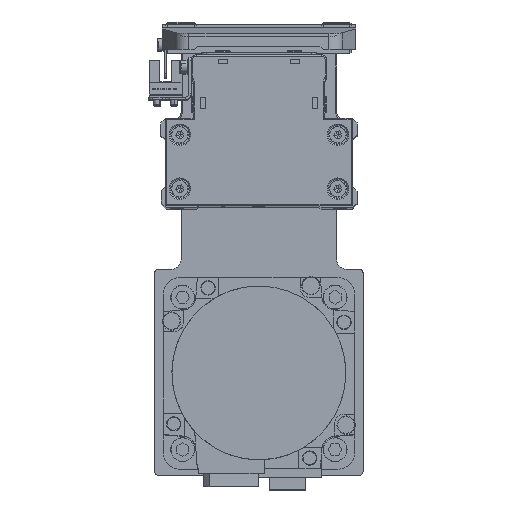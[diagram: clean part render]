
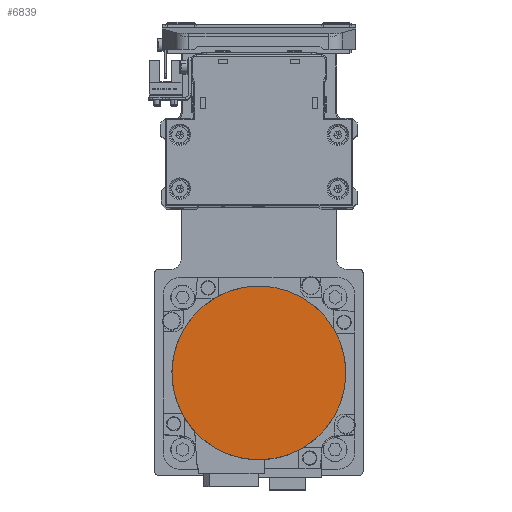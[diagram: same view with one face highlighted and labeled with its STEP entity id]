
A CAD part, top view. The second image highlights one B-rep face of the part: STEP entity #6839.
In plain terms, the highlighted planar face has unit normal (0, 0, 1) as drawn and (0, 0, -1) by its records, which use the part's own axes.
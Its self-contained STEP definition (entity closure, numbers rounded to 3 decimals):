
#1598 = DIRECTION ( 'NONE',  ( 0., 0., 1. ) ) ;
#2118 = ORIENTED_EDGE ( 'NONE', *, *, #26881, .F. ) ;
#4562 = FACE_OUTER_BOUND ( 'NONE', #9588, .T. ) ;
#4878 = CARTESIAN_POINT ( 'NONE',  ( 0., 36.3, -122.2 ) ) ;
#4982 = CIRCLE ( 'NONE', #27080, 36.3 ) ;
#6730 = CARTESIAN_POINT ( 'NONE',  ( 0., 0., -122.2 ) ) ;
#6839 = ADVANCED_FACE ( 'NONE', ( #4562 ), #16649, .F. ) ;
#7412 = ORIENTED_EDGE ( 'NONE', *, *, #18017, .F. ) ;
#9588 = EDGE_LOOP ( 'NONE', ( #7412, #2118 ) ) ;
#9648 = CARTESIAN_POINT ( 'NONE',  ( 0., -36.3, -122.2 ) ) ;
#11308 = DIRECTION ( 'NONE',  ( 0., 1., 0. ) ) ;
#12291 = CIRCLE ( 'NONE', #34367, 36.3 ) ;
#13685 = DIRECTION ( 'NONE',  ( 1., 0., 0. ) ) ;
#16649 = PLANE ( 'NONE',  #24607 ) ;
#16893 = VERTEX_POINT ( 'NONE', #9648 ) ;
#18017 = EDGE_CURVE ( 'NONE', #34815, #16893, #4982, .T. ) ;
#18791 = DIRECTION ( 'NONE',  ( 0., 0., 1. ) ) ;
#24607 = AXIS2_PLACEMENT_3D ( 'NONE', #28677, #1598, #13685 ) ;
#26322 = CARTESIAN_POINT ( 'NONE',  ( 0., 0., -122.2 ) ) ;
#26881 = EDGE_CURVE ( 'NONE', #16893, #34815, #12291, .T. ) ;
#27080 = AXIS2_PLACEMENT_3D ( 'NONE', #26322, #38359, #11308 ) ;
#28677 = CARTESIAN_POINT ( 'NONE',  ( 0., 0., -122.2 ) ) ;
#30830 = DIRECTION ( 'NONE',  ( 0., -1., 0. ) ) ;
#34367 = AXIS2_PLACEMENT_3D ( 'NONE', #6730, #18791, #30830 ) ;
#34815 = VERTEX_POINT ( 'NONE', #4878 ) ;
#38359 = DIRECTION ( 'NONE',  ( 0., 0., 1. ) ) ;
